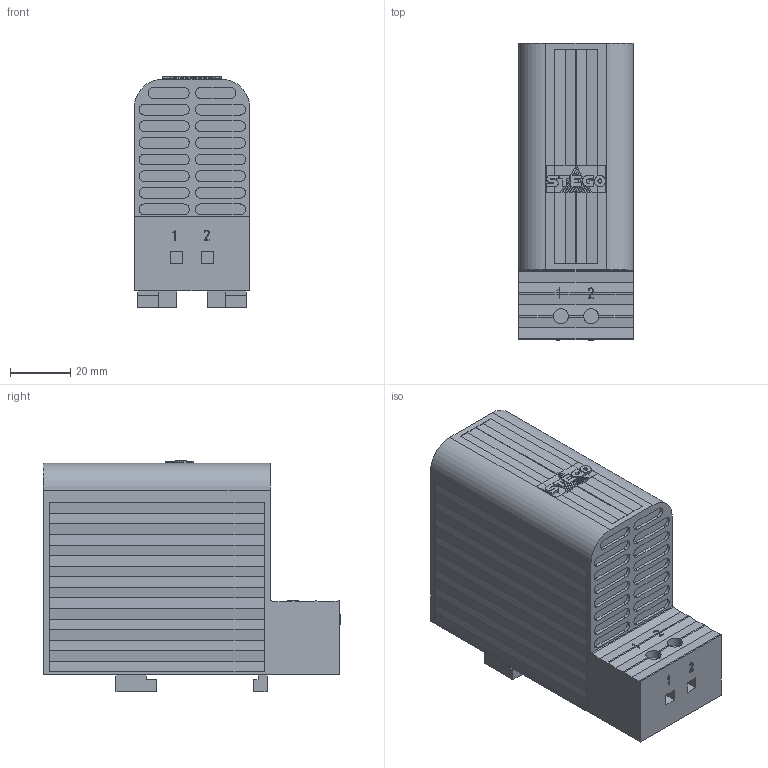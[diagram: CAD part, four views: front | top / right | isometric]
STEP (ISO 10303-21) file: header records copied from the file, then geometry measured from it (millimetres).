
FILE_DESCRIPTION (( 'STEP AP214' ), '1' );
FILE_NAME ('CSK_060_EPLAN_07_2013.STEP', '2013-07-23T08:46:15', ( '' ), ( '' ), 'SwSTEP 2.0', 'SolidWorks 2013', '' );
FILE_SCHEMA (( 'AUTOMOTIVE_DESIGN' ));
Length unit declared in the file: millimetre
Products named in the file (1): CSK_060_EPLAN_07_2013
Bounding box: 38 x 98.3 x 76.5 mm (x, y, z)
Volume: 216018.7 mm3; surface area: 26914.1 mm2
Topology: 2 solids, 2 shells, 593 faces, 1544 edges, 1008 vertices
Faces by surface type: plane 411, bspline 94, cylinder 88
Entity records: 19152 total; most frequent: CARTESIAN_POINT 5060, ORIENTED_EDGE 3088, DIRECTION 2532, EDGE_CURVE 1544, LINE 1170, VECTOR 1170, VERTEX_POINT 1008, AXIS2_PLACEMENT_3D 681
